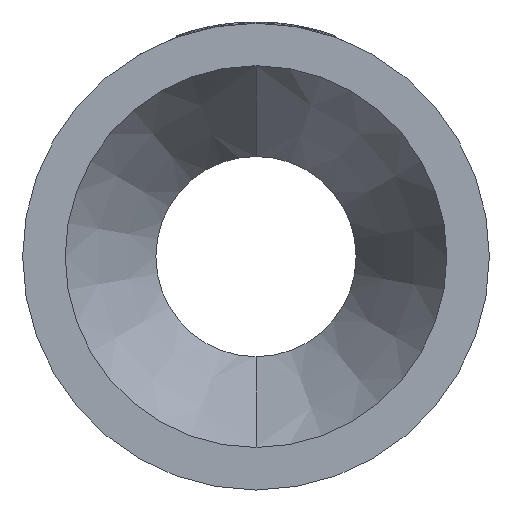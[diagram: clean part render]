
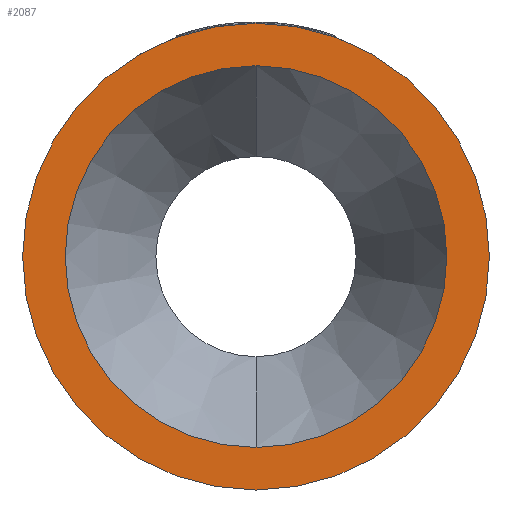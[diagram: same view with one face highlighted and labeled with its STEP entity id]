
A CAD part, left-side view. The second image highlights one B-rep face of the part: STEP entity #2087.
In plain terms, the highlighted planar face has unit normal (-1, 0, 0).
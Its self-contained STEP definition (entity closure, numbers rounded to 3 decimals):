
#271 = AXIS2_PLACEMENT_3D ( 'NONE', #2046, #2023, #1886 ) ;
#282 = CIRCLE ( 'NONE', #2819, 90. ) ;
#642 = DIRECTION ( 'NONE',  ( -1., 0., 0. ) ) ;
#663 = EDGE_LOOP ( 'NONE', ( #3351, #3398 ) ) ;
#715 = ORIENTED_EDGE ( 'NONE', *, *, #1417, .F. ) ;
#828 = AXIS2_PLACEMENT_3D ( 'NONE', #1966, #1034, #2639 ) ;
#835 = EDGE_CURVE ( 'NONE', #2909, #3023, #282, .T. ) ;
#874 = CARTESIAN_POINT ( 'NONE',  ( 0., 0., 73.6 ) ) ;
#885 = EDGE_CURVE ( 'NONE', #3282, #2368, #1556, .T. ) ;
#888 = EDGE_CURVE ( 'NONE', #3023, #2909, #2249, .T. ) ;
#1009 = CIRCLE ( 'NONE', #3236, 73.6 ) ;
#1034 = DIRECTION ( 'NONE',  ( -1., 0., 0. ) ) ;
#1094 = DIRECTION ( 'NONE',  ( 0., 0., 1. ) ) ;
#1170 = CARTESIAN_POINT ( 'NONE',  ( 0., 0., 0. ) ) ;
#1417 = EDGE_CURVE ( 'NONE', #2368, #3282, #1009, .T. ) ;
#1556 = CIRCLE ( 'NONE', #828, 73.6 ) ;
#1695 = DIRECTION ( 'NONE',  ( -1., 0., 0. ) ) ;
#1886 = DIRECTION ( 'NONE',  ( 0., 0., -1. ) ) ;
#1966 = CARTESIAN_POINT ( 'NONE',  ( 0., 0., 0. ) ) ;
#2023 = DIRECTION ( 'NONE',  ( 1., 0., 0. ) ) ;
#2024 = DIRECTION ( 'NONE',  ( 0., 0., 1. ) ) ;
#2046 = CARTESIAN_POINT ( 'NONE',  ( 0., 73.6, 0. ) ) ;
#2067 = CARTESIAN_POINT ( 'NONE',  ( 0., 0., -73.6 ) ) ;
#2087 = ADVANCED_FACE ( 'NONE', ( #3227, #3219 ), #2154, .F. ) ;
#2127 = EDGE_LOOP ( 'NONE', ( #3329, #715 ) ) ;
#2143 = CARTESIAN_POINT ( 'NONE',  ( 0., 0., 0. ) ) ;
#2154 = PLANE ( 'NONE',  #271 ) ;
#2249 = CIRCLE ( 'NONE', #2565, 90. ) ;
#2368 = VERTEX_POINT ( 'NONE', #2067 ) ;
#2408 = CARTESIAN_POINT ( 'NONE',  ( 0., 0., 90. ) ) ;
#2440 = CARTESIAN_POINT ( 'NONE',  ( 0., 0., 0. ) ) ;
#2532 = DIRECTION ( 'NONE',  ( -1., 0., 0. ) ) ;
#2565 = AXIS2_PLACEMENT_3D ( 'NONE', #2143, #642, #1094 ) ;
#2639 = DIRECTION ( 'NONE',  ( 0., 0., 1. ) ) ;
#2795 = DIRECTION ( 'NONE',  ( 0., 0., 1. ) ) ;
#2819 = AXIS2_PLACEMENT_3D ( 'NONE', #2440, #2532, #2795 ) ;
#2909 = VERTEX_POINT ( 'NONE', #2408 ) ;
#3023 = VERTEX_POINT ( 'NONE', #3299 ) ;
#3219 = FACE_OUTER_BOUND ( 'NONE', #663, .T. ) ;
#3227 = FACE_BOUND ( 'NONE', #2127, .T. ) ;
#3236 = AXIS2_PLACEMENT_3D ( 'NONE', #1170, #1695, #2024 ) ;
#3282 = VERTEX_POINT ( 'NONE', #874 ) ;
#3299 = CARTESIAN_POINT ( 'NONE',  ( 0., 0., -90. ) ) ;
#3329 = ORIENTED_EDGE ( 'NONE', *, *, #885, .F. ) ;
#3351 = ORIENTED_EDGE ( 'NONE', *, *, #835, .T. ) ;
#3398 = ORIENTED_EDGE ( 'NONE', *, *, #888, .T. ) ;
